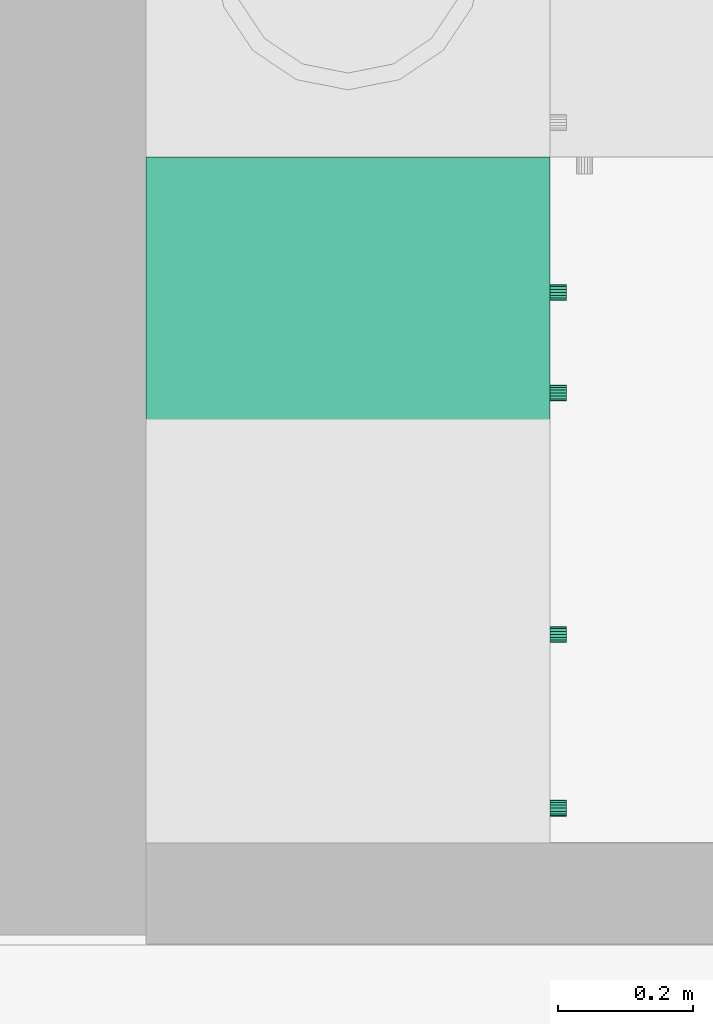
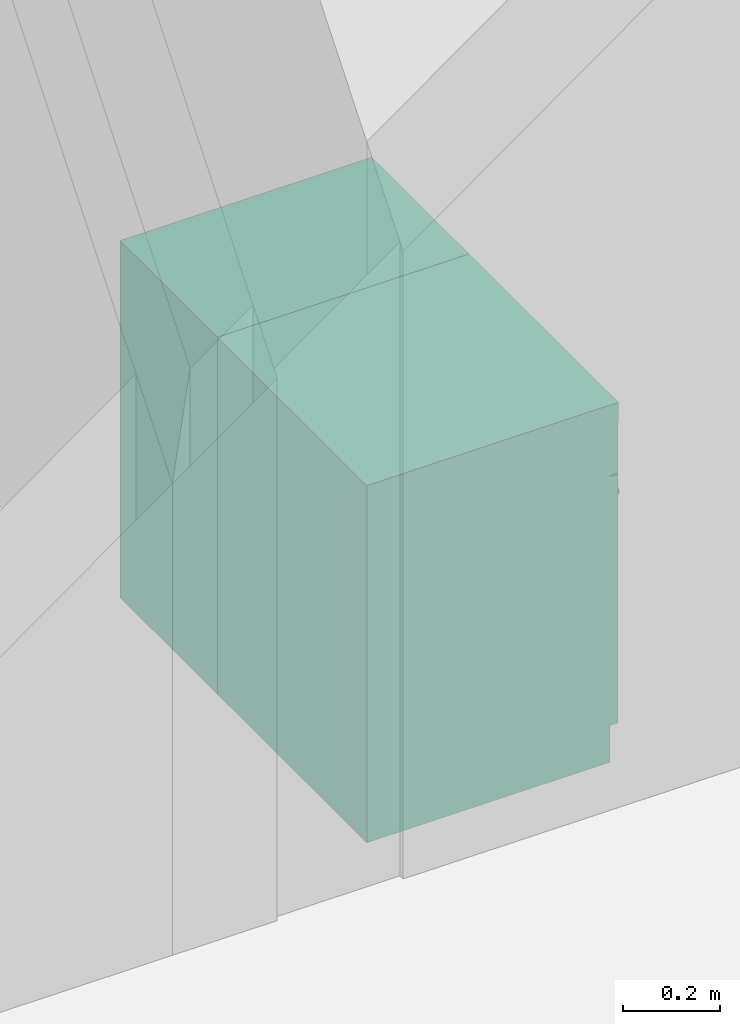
# One storey, part 58 of 172: 2 flow terminals.
"""IFC2X3 building model written with IfcOpenShell, lengths in millimetres."""

from ifc_helpers import new_model, entity, si_unit, converted_unit, money_unit, direction, frame, origin_with_axes, place, context, subcontext, project, spatial, faceted_brep, source, transform, mapped, material, material_list, type_object, element, save


model = new_model("IFC2X3")

# Units and contexts
model_context = context("Model", 3, precision=1e-05, world=origin_with_axes(), true_north=direction((0.0, 1.0)))
body_context = subcontext(model_context, "Body", "Model", "MODEL_VIEW")
ifc_project = project(units=[si_unit("LENGTHUNIT", "METRE", prefix="MILLI"), si_unit("AREAUNIT", "SQUARE_METRE"), si_unit("VOLUMEUNIT", "CUBIC_METRE"), converted_unit("PLANEANGLEUNIT", "DEGREE", entity("IfcPlaneAngleMeasure", 0.0174532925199), si_unit("PLANEANGLEUNIT", "RADIAN"), dimensions=[0, 0, 0, 0, 0, 0, 0]), si_unit("SOLIDANGLEUNIT", "STERADIAN"), money_unit("USD"), converted_unit("TIMEUNIT", "Year", entity("IfcTimeMeasure", 31556926.0), si_unit("TIMEUNIT", "SECOND"), dimensions=[0, 0, 0, 0, 0, 0, 0]), si_unit("MASSUNIT", "GRAM"), si_unit("THERMODYNAMICTEMPERATUREUNIT", "DEGREE_CELSIUS"), si_unit("LUMINOUSINTENSITYUNIT", "LUMEN")], contexts=[model_context])

# Site, building, storey
site_placement = place(None, origin_with_axes())
site = spatial("IfcSite", under=ifc_project, at=site_placement, Name="Site", CompositionType="ELEMENT")
building_placement = place(site_placement, origin_with_axes())
building = spatial("IfcBuilding", under=site, at=building_placement, Name="Building", CompositionType="ELEMENT")
storey_placement = place(building_placement, frame((0.0, 0.0, 3200.0), z_axis=(0.0, 0.0, 1.0), x_axis=(1.0, 0.0, 0.0)))
storey = spatial("IfcBuildingStorey", under=building, at=storey_placement, Name="3KORRUS", CompositionType="ELEMENT", Elevation=3200.0)

# Flow terminals
ifc_material = material(Name="Background")
ifc_material_list = material_list([ifc_material])
sanitary_terminal_type = type_object("IfcSanitaryTerminalType", Name="Cabinet Base Single Door 19", PredefinedType="SINK")
shared_shape_1 = source(origin_with_axes(), body_context, "Body", "Brep", [
    faceted_brep([(-20.0, 20.0, 710.0), (-20.0, 20.0, 730.0), (-382.248, 20.0, 730.0), (-382.248, 20.0, 710.0), (-20.0, 580.0, 710.0), (-20.0, 580.0, 730.0), (-382.248, 580.0, 730.0), (-382.248, 580.0, 710.0)], [[[0, 1, 2, 3]], [[4, 5, 1, 0]], [[1, 5, 6, 2]], [[3, 2, 6, 7]], [[0, 3, 7, 4]], [[7, 6, 5, 4]]]),
    faceted_brep([(0.0, 20.0, 0.0), (0.0, 20.0, 90.0), (-402.248, 20.0, 90.0), (-402.248, 20.0, 0.0), (0.0, 600.0, 0.0), (0.0, 600.0, 90.0), (-402.248, 600.0, 90.0), (-402.248, 600.0, 0.0)], [[[0, 1, 2, 3]], [[4, 5, 1, 0]], [[1, 5, 6, 2]], [[3, 2, 6, 7]], [[0, 3, 7, 4]], [[7, 6, 5, 4]]]),
    faceted_brep([(0.0, 20.0, 830.0), (0.0, 20.0, 850.0), (-20.0, 20.0, 850.0), (-20.0, 20.0, 830.0), (0.0, 600.0, 830.0), (0.0, 600.0, 850.0), (-20.0, 600.0, 850.0), (-382.248, 600.0, 850.0), (-402.248, 600.0, 850.0), (-402.248, 20.0, 850.0), (-382.248, 20.0, 850.0), (-382.248, 20.0, 830.0), (-402.248, 20.0, 830.0), (-402.248, 600.0, 830.0), (-382.248, 600.0, 830.0), (-20.0, 600.0, 830.0)], [[[0, 1, 2, 3]], [[4, 5, 1, 0]], [[1, 5, 6, 7, 8, 9, 10, 2]], [[3, 2, 10, 11]], [[0, 3, 11, 12, 13, 14, 15, 4]], [[15, 6, 5, 4]], [[14, 7, 6, 15]], [[13, 8, 7, 14]], [[12, 9, 8, 13]], [[11, 10, 9, 12]]]),
    faceted_brep([(0.0, 20.0, 90.0), (0.0, 20.0, 110.0), (-20.0, 20.0, 110.0), (-20.0, 20.0, 90.0), (0.0, 600.0, 90.0), (0.0, 600.0, 110.0), (-20.0, 600.0, 110.0), (-382.248, 600.0, 110.0), (-402.248, 600.0, 110.0), (-402.248, 20.0, 110.0), (-382.248, 20.0, 110.0), (-382.248, 20.0, 90.0), (-402.248, 20.0, 90.0), (-402.248, 600.0, 90.0), (-382.248, 600.0, 90.0), (-20.0, 600.0, 90.0)], [[[0, 1, 2, 3]], [[4, 5, 1, 0]], [[1, 5, 6, 7, 8, 9, 10, 2]], [[3, 2, 10, 11]], [[0, 3, 11, 12, 13, 14, 15, 4]], [[15, 6, 5, 4]], [[14, 7, 6, 15]], [[13, 8, 7, 14]], [[12, 9, 8, 13]], [[11, 10, 9, 12]]]),
    faceted_brep([(0.0, 20.0, 110.0), (0.0, 20.0, 830.0), (-20.0, 20.0, 830.0), (-20.0, 20.0, 110.0), (0.0, 600.0, 110.0), (0.0, 600.0, 830.0), (-402.248, 600.0, 830.0), (-402.248, 20.0, 830.0), (-382.248, 20.0, 830.0), (-382.248, 580.0, 830.0), (-20.0, 580.0, 830.0), (-20.0, 580.0, 110.0), (-382.248, 580.0, 110.0), (-382.248, 20.0, 110.0), (-402.248, 20.0, 110.0), (-402.248, 600.0, 110.0)], [[[0, 1, 2, 3]], [[4, 5, 1, 0]], [[1, 5, 6, 7, 8, 9, 10, 2]], [[3, 2, 10, 11]], [[0, 3, 11, 12, 13, 14, 15, 4]], [[15, 6, 5, 4]], [[14, 7, 6, 15]], [[13, 8, 7, 14]], [[12, 9, 8, 13]], [[11, 10, 9, 12]]]),
    faceted_brep([(-382.248, 20.0, 385.0), (-382.248, 20.0, 405.0), (-382.248, 580.0, 405.0), (-382.248, 580.0, 385.0), (-20.0, 20.0, 385.0), (-20.0, 20.0, 405.0), (-20.0, 580.0, 405.0), (-20.0, 580.0, 385.0)], [[[0, 1, 2, 3]], [[4, 5, 1, 0]], [[1, 5, 6, 2]], [[3, 2, 6, 7]], [[0, 3, 7, 4]], [[7, 6, 5, 4]]]),
    faceted_brep([(0.0, 0.0, 850.0), (0.0, 0.0, 900.0), (-402.248, 0.0, 900.0), (-402.248, 0.0, 850.0), (0.0, 600.0, 850.0), (0.0, 600.0, 900.0), (-402.248, 600.0, 900.0), (-402.248, 600.0, 850.0)], [[[0, 1, 2, 3]], [[4, 5, 1, 0]], [[1, 5, 6, 2]], [[3, 2, 6, 7]], [[0, 3, 7, 4]], [[7, 6, 5, 4]]]),
    faceted_brep([(-1.5, 20.0, 721.5), (-1.5, 0.0, 721.5), (-400.748, 0.0, 721.5), (-400.748, 20.0, 721.5), (-1.5, 20.0, 848.5), (-1.5, 0.0, 848.5), (-400.748, 0.0, 848.5), (-400.748, 20.0, 848.5)], [[[0, 1, 2, 3]], [[4, 5, 1, 0]], [[1, 5, 6, 2]], [[3, 2, 6, 7]], [[0, 3, 7, 4]], [[7, 6, 5, 4]]]),
    faceted_brep([(-196.532, 0.0, 773.913), (-201.124, 0.0, 773.0), (-205.716, 0.0, 773.913), (-209.609, 0.0, 776.515), (-212.211, 0.0, 780.408), (-213.124, 0.0, 785.0), (-212.211, 0.0, 789.592), (-209.609, 0.0, 793.485), (-205.716, 0.0, 796.087), (-201.124, 0.0, 797.0), (-196.532, 0.0, 796.087), (-192.639, 0.0, 793.485), (-190.038, 0.0, 789.592), (-189.124, 0.0, 785.0), (-190.038, 0.0, 780.408), (-192.639, 0.0, 776.515), (-196.532, -25.0, 773.913), (-201.124, -25.0, 773.0), (-205.716, -25.0, 773.913), (-209.609, -25.0, 776.515), (-212.211, -25.0, 780.408), (-213.124, -25.0, 785.0), (-212.211, -25.0, 789.592), (-209.609, -25.0, 793.485), (-205.716, -25.0, 796.087), (-201.124, -25.0, 797.0), (-196.532, -25.0, 796.087), (-192.639, -25.0, 793.485), (-190.038, -25.0, 789.592), (-189.124, -25.0, 785.0), (-190.038, -25.0, 780.408), (-192.639, -25.0, 776.515)], [[[0, 1, 2, 3, 4, 5, 6, 7, 8, 9, 10, 11, 12, 13, 14, 15]], [[0, 16, 17, 1]], [[1, 17, 18, 2]], [[2, 18, 19, 3]], [[3, 19, 20, 4]], [[4, 20, 21, 5]], [[5, 21, 22, 6]], [[6, 22, 23, 7]], [[7, 23, 24, 8]], [[8, 24, 25, 9]], [[9, 25, 26, 10]], [[10, 26, 27, 11]], [[11, 27, 28, 12]], [[12, 28, 29, 13]], [[13, 29, 30, 14]], [[14, 30, 31, 15]], [[15, 31, 16, 0]], [[16, 31, 30, 29, 28, 27, 26, 25, 24, 23, 22, 21, 20, 19, 18, 17]]]),
    faceted_brep([(-1.5, 20.0, 91.5), (-1.5, 0.0, 91.5), (-400.748, 0.0, 91.5), (-400.748, 20.0, 91.5), (-1.5, 20.0, 718.5), (-1.5, 0.0, 718.5), (-400.748, 0.0, 718.5), (-400.748, 20.0, 718.5)], [[[0, 1, 2, 3]], [[4, 5, 1, 0]], [[1, 5, 6, 2]], [[3, 2, 6, 7]], [[0, 3, 7, 4]], [[7, 6, 5, 4]]]),
    faceted_brep([(-361.835, 0.0, 636.908), (-362.748, 0.0, 641.5), (-361.835, 0.0, 646.092), (-359.234, 0.0, 649.985), (-355.341, 0.0, 652.587), (-350.748, 0.0, 653.5), (-346.156, 0.0, 652.587), (-342.263, 0.0, 649.985), (-339.662, 0.0, 646.092), (-338.748, 0.0, 641.5), (-339.662, 0.0, 636.908), (-342.263, 0.0, 633.015), (-346.156, 0.0, 630.413), (-350.748, 0.0, 629.5), (-355.341, 0.0, 630.413), (-359.234, 0.0, 633.015), (-361.835, -25.0, 636.908), (-362.748, -25.0, 641.5), (-361.835, -25.0, 646.092), (-359.234, -25.0, 649.985), (-355.341, -25.0, 652.587), (-350.748, -25.0, 653.5), (-346.156, -25.0, 652.587), (-342.263, -25.0, 649.985), (-339.662, -25.0, 646.092), (-338.748, -25.0, 641.5), (-339.662, -25.0, 636.908), (-342.263, -25.0, 633.015), (-346.156, -25.0, 630.413), (-350.748, -25.0, 629.5), (-355.341, -25.0, 630.413), (-359.234, -25.0, 633.015)], [[[0, 1, 2, 3, 4, 5, 6, 7, 8, 9, 10, 11, 12, 13, 14, 15]], [[0, 16, 17, 1]], [[1, 17, 18, 2]], [[2, 18, 19, 3]], [[3, 19, 20, 4]], [[4, 20, 21, 5]], [[5, 21, 22, 6]], [[6, 22, 23, 7]], [[7, 23, 24, 8]], [[8, 24, 25, 9]], [[9, 25, 26, 10]], [[10, 26, 27, 11]], [[11, 27, 28, 12]], [[12, 28, 29, 13]], [[13, 29, 30, 14]], [[14, 30, 31, 15]], [[15, 31, 16, 0]], [[16, 31, 30, 29, 28, 27, 26, 25, 24, 23, 22, 21, 20, 19, 18, 17]]]),
])
flow_terminal_1_placement = place(storey_placement, frame((6609.70329669, -9967.37850445, 0.0), z_axis=(0.0, 0.0, 1.0), x_axis=(0.0, 1.0, 0.0)))
element("IfcFlowTerminal", 1, at=flow_terminal_1_placement, inside=storey, type_object=sanitary_terminal_type, material=ifc_material_list, Name="FU - 007", context=body_context, shape_type="MappedRepresentation", body=[
    mapped(shared_shape_1, transform((0.0, 0.0, 0.0))),
])
shared_shape_2 = source(origin_with_axes(), body_context, "Body", "Brep", [
    faceted_brep([(-20.0, 20.0, 710.0), (-20.0, 20.0, 730.0), (-599.796, 20.0, 730.0), (-599.796, 20.0, 710.0), (-20.0, 580.0, 710.0), (-20.0, 580.0, 730.0), (-599.796, 580.0, 730.0), (-599.796, 580.0, 710.0)], [[[0, 1, 2, 3]], [[4, 5, 1, 0]], [[1, 5, 6, 2]], [[3, 2, 6, 7]], [[0, 3, 7, 4]], [[7, 6, 5, 4]]]),
    faceted_brep([(0.0, 20.0, 0.0), (0.0, 20.0, 90.0), (-619.796, 20.0, 90.0), (-619.796, 20.0, 0.0), (0.0, 600.0, 0.0), (0.0, 600.0, 90.0), (-619.796, 600.0, 90.0), (-619.796, 600.0, 0.0)], [[[0, 1, 2, 3]], [[4, 5, 1, 0]], [[1, 5, 6, 2]], [[3, 2, 6, 7]], [[0, 3, 7, 4]], [[7, 6, 5, 4]]]),
    faceted_brep([(0.0, 20.0, 830.0), (0.0, 20.0, 850.0), (-20.0, 20.0, 850.0), (-20.0, 20.0, 830.0), (0.0, 600.0, 830.0), (0.0, 600.0, 850.0), (-20.0, 600.0, 850.0), (-599.796, 600.0, 850.0), (-619.796, 600.0, 850.0), (-619.796, 20.0, 850.0), (-599.796, 20.0, 850.0), (-599.796, 20.0, 830.0), (-619.796, 20.0, 830.0), (-619.796, 600.0, 830.0), (-599.796, 600.0, 830.0), (-20.0, 600.0, 830.0)], [[[0, 1, 2, 3]], [[4, 5, 1, 0]], [[1, 5, 6, 7, 8, 9, 10, 2]], [[3, 2, 10, 11]], [[0, 3, 11, 12, 13, 14, 15, 4]], [[15, 6, 5, 4]], [[14, 7, 6, 15]], [[13, 8, 7, 14]], [[12, 9, 8, 13]], [[11, 10, 9, 12]]]),
    faceted_brep([(0.0, 20.0, 90.0), (0.0, 20.0, 110.0), (-20.0, 20.0, 110.0), (-20.0, 20.0, 90.0), (0.0, 600.0, 90.0), (0.0, 600.0, 110.0), (-20.0, 600.0, 110.0), (-599.796, 600.0, 110.0), (-619.796, 600.0, 110.0), (-619.796, 20.0, 110.0), (-599.796, 20.0, 110.0), (-599.796, 20.0, 90.0), (-619.796, 20.0, 90.0), (-619.796, 600.0, 90.0), (-599.796, 600.0, 90.0), (-20.0, 600.0, 90.0)], [[[0, 1, 2, 3]], [[4, 5, 1, 0]], [[1, 5, 6, 7, 8, 9, 10, 2]], [[3, 2, 10, 11]], [[0, 3, 11, 12, 13, 14, 15, 4]], [[15, 6, 5, 4]], [[14, 7, 6, 15]], [[13, 8, 7, 14]], [[12, 9, 8, 13]], [[11, 10, 9, 12]]]),
    faceted_brep([(0.0, 20.0, 110.0), (0.0, 20.0, 830.0), (-20.0, 20.0, 830.0), (-20.0, 20.0, 110.0), (0.0, 600.0, 110.0), (0.0, 600.0, 830.0), (-619.796, 600.0, 830.0), (-619.796, 20.0, 830.0), (-599.796, 20.0, 830.0), (-599.796, 580.0, 830.0), (-20.0, 580.0, 830.0), (-20.0, 580.0, 110.0), (-599.796, 580.0, 110.0), (-599.796, 20.0, 110.0), (-619.796, 20.0, 110.0), (-619.796, 600.0, 110.0)], [[[0, 1, 2, 3]], [[4, 5, 1, 0]], [[1, 5, 6, 7, 8, 9, 10, 2]], [[3, 2, 10, 11]], [[0, 3, 11, 12, 13, 14, 15, 4]], [[15, 6, 5, 4]], [[14, 7, 6, 15]], [[13, 8, 7, 14]], [[12, 9, 8, 13]], [[11, 10, 9, 12]]]),
    faceted_brep([(-599.796, 20.0, 385.0), (-599.796, 20.0, 405.0), (-599.796, 580.0, 405.0), (-599.796, 580.0, 385.0), (-20.0, 20.0, 385.0), (-20.0, 20.0, 405.0), (-20.0, 580.0, 405.0), (-20.0, 580.0, 385.0)], [[[0, 1, 2, 3]], [[4, 5, 1, 0]], [[1, 5, 6, 2]], [[3, 2, 6, 7]], [[0, 3, 7, 4]], [[7, 6, 5, 4]]]),
    faceted_brep([(0.0, 0.0, 850.0), (0.0, 0.0, 900.0), (-619.796, 0.0, 900.0), (-619.796, 0.0, 850.0), (0.0, 600.0, 850.0), (0.0, 600.0, 900.0), (-619.796, 600.0, 900.0), (-619.796, 600.0, 850.0)], [[[0, 1, 2, 3]], [[4, 5, 1, 0]], [[1, 5, 6, 2]], [[3, 2, 6, 7]], [[0, 3, 7, 4]], [[7, 6, 5, 4]]]),
    faceted_brep([(-1.5, 20.0, 721.5), (-1.5, 0.0, 721.5), (-618.296, 0.0, 721.5), (-618.296, 20.0, 721.5), (-1.5, 20.0, 848.5), (-1.5, 0.0, 848.5), (-618.296, 0.0, 848.5), (-618.296, 20.0, 848.5)], [[[0, 1, 2, 3]], [[4, 5, 1, 0]], [[1, 5, 6, 2]], [[3, 2, 6, 7]], [[0, 3, 7, 4]], [[7, 6, 5, 4]]]),
    faceted_brep([(-305.306, 0.0, 773.913), (-309.898, 0.0, 773.0), (-314.49, 0.0, 773.913), (-318.383, 0.0, 776.515), (-320.984, 0.0, 780.408), (-321.898, 0.0, 785.0), (-320.984, 0.0, 789.592), (-318.383, 0.0, 793.485), (-314.49, 0.0, 796.087), (-309.898, 0.0, 797.0), (-305.306, 0.0, 796.087), (-301.413, 0.0, 793.485), (-298.811, 0.0, 789.592), (-297.898, 0.0, 785.0), (-298.811, 0.0, 780.408), (-301.413, 0.0, 776.515), (-305.306, -25.0, 773.913), (-309.898, -25.0, 773.0), (-314.49, -25.0, 773.913), (-318.383, -25.0, 776.515), (-320.984, -25.0, 780.408), (-321.898, -25.0, 785.0), (-320.984, -25.0, 789.592), (-318.383, -25.0, 793.485), (-314.49, -25.0, 796.087), (-309.898, -25.0, 797.0), (-305.306, -25.0, 796.087), (-301.413, -25.0, 793.485), (-298.811, -25.0, 789.592), (-297.898, -25.0, 785.0), (-298.811, -25.0, 780.408), (-301.413, -25.0, 776.515)], [[[0, 1, 2, 3, 4, 5, 6, 7, 8, 9, 10, 11, 12, 13, 14, 15]], [[0, 16, 17, 1]], [[1, 17, 18, 2]], [[2, 18, 19, 3]], [[3, 19, 20, 4]], [[4, 20, 21, 5]], [[5, 21, 22, 6]], [[6, 22, 23, 7]], [[7, 23, 24, 8]], [[8, 24, 25, 9]], [[9, 25, 26, 10]], [[10, 26, 27, 11]], [[11, 27, 28, 12]], [[12, 28, 29, 13]], [[13, 29, 30, 14]], [[14, 30, 31, 15]], [[15, 31, 16, 0]], [[16, 31, 30, 29, 28, 27, 26, 25, 24, 23, 22, 21, 20, 19, 18, 17]]]),
    faceted_brep([(-1.5, 20.0, 91.5), (-1.5, 0.0, 91.5), (-618.296, 0.0, 91.5), (-618.296, 20.0, 91.5), (-1.5, 20.0, 718.5), (-1.5, 0.0, 718.5), (-618.296, 0.0, 718.5), (-618.296, 20.0, 718.5)], [[[0, 1, 2, 3]], [[4, 5, 1, 0]], [[1, 5, 6, 2]], [[3, 2, 6, 7]], [[0, 3, 7, 4]], [[7, 6, 5, 4]]]),
    faceted_brep([(-579.382, 0.0, 636.908), (-580.296, 0.0, 641.5), (-579.382, 0.0, 646.092), (-576.781, 0.0, 649.985), (-572.888, 0.0, 652.587), (-568.296, 0.0, 653.5), (-563.704, 0.0, 652.587), (-559.811, 0.0, 649.985), (-557.209, 0.0, 646.092), (-556.296, 0.0, 641.5), (-557.209, 0.0, 636.908), (-559.811, 0.0, 633.015), (-563.704, 0.0, 630.413), (-568.296, 0.0, 629.5), (-572.888, 0.0, 630.413), (-576.781, 0.0, 633.015), (-579.382, -25.0, 636.908), (-580.296, -25.0, 641.5), (-579.382, -25.0, 646.092), (-576.781, -25.0, 649.985), (-572.888, -25.0, 652.587), (-568.296, -25.0, 653.5), (-563.704, -25.0, 652.587), (-559.811, -25.0, 649.985), (-557.209, -25.0, 646.092), (-556.296, -25.0, 641.5), (-557.209, -25.0, 636.908), (-559.811, -25.0, 633.015), (-563.704, -25.0, 630.413), (-568.296, -25.0, 629.5), (-572.888, -25.0, 630.413), (-576.781, -25.0, 633.015)], [[[0, 1, 2, 3, 4, 5, 6, 7, 8, 9, 10, 11, 12, 13, 14, 15]], [[0, 16, 17, 1]], [[1, 17, 18, 2]], [[2, 18, 19, 3]], [[3, 19, 20, 4]], [[4, 20, 21, 5]], [[5, 21, 22, 6]], [[6, 22, 23, 7]], [[7, 23, 24, 8]], [[8, 24, 25, 9]], [[9, 25, 26, 10]], [[10, 26, 27, 11]], [[11, 27, 28, 12]], [[12, 28, 29, 13]], [[13, 29, 30, 14]], [[14, 30, 31, 15]], [[15, 31, 16, 0]], [[16, 31, 30, 29, 28, 27, 26, 25, 24, 23, 22, 21, 20, 19, 18, 17]]]),
])
flow_terminal_2_placement = place(storey_placement, frame((6609.70329669, -10366.80822, 0.0), z_axis=(0.0, 0.0, 1.0), x_axis=(0.0, 1.0, 0.0)))
element("IfcFlowTerminal", 2, at=flow_terminal_2_placement, inside=storey, type_object=sanitary_terminal_type, material=ifc_material_list, Name="FU - 007", context=body_context, shape_type="MappedRepresentation", body=[
    mapped(shared_shape_2, transform((0.0, 0.0, 0.0))),
])

save(model, "model.ifc")
